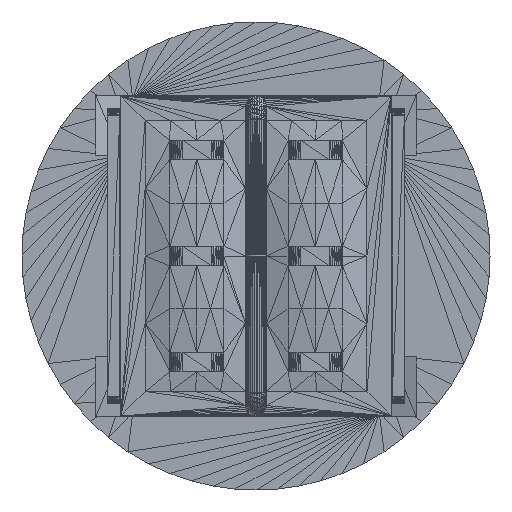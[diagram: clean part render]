
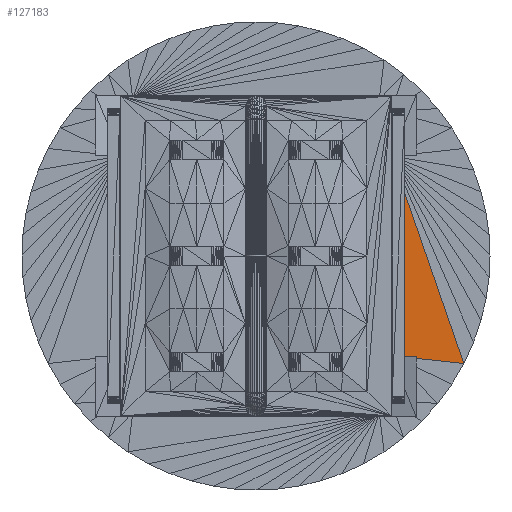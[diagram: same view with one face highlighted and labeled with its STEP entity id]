
A CAD part, left-side view. The second image highlights one B-rep face of the part: STEP entity #127183.
In plain terms, the highlighted planar face has unit normal (-1, 0, 0).
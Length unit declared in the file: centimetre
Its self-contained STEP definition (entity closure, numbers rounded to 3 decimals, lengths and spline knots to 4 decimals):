
#3713=DIRECTION('',(0.,0.328,0.945));
#3714=DIRECTION('',(0.,0.994,0.107));
#4339=DIRECTION('',(0.,0.,1.));
#12620=VECTOR('',#3713,1.);
#12621=VECTOR('',#3714,1.);
#13246=VECTOR('',#4339,1.);
#19791=CARTESIAN_POINT('',(-122.0754,47.4098,-11.0828));
#19927=CARTESIAN_POINT('',(-122.0754,54.8169,-10.287));
#19932=CARTESIAN_POINT('',(-122.0754,54.8169,10.287));
#24094=VERTEX_POINT('',#19791);
#24230=VERTEX_POINT('',#19927);
#24235=VERTEX_POINT('',#19932);
#35143=LINE('',#19927,#13246);
#35259=LINE('',#19791,#12620);
#35260=LINE('',#19791,#12621);
#48082=EDGE_CURVE('',#24230,#24235,#35143,.T.);
#48198=EDGE_CURVE('',#24094,#24235,#35259,.T.);
#48199=EDGE_CURVE('',#24094,#24230,#35260,.T.);
#61137=ORIENTED_EDGE('',*,*,#48198,.T.);
#73960=ORIENTED_EDGE('',*,*,#48082,.F.);
#74077=ORIENTED_EDGE('',*,*,#48199,.F.);
#84053=EDGE_LOOP('',(#61137,#73960,#74077));
#92679=FACE_OUTER_BOUND('',#84053,.T.);
#107136=DIRECTION('',(-1.,0.,0.));
#107137=AXIS2_PLACEMENT_3D('',#19791,#107136,#3713);
#118557=PLANE('',#107137);
#127183=ADVANCED_FACE('',(#92679),#118557,.T.);
